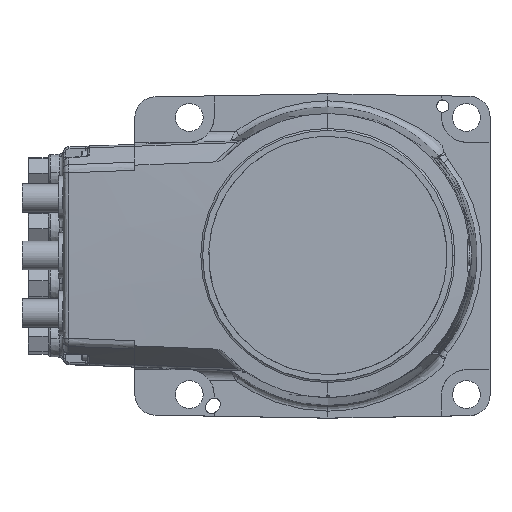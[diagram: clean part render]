
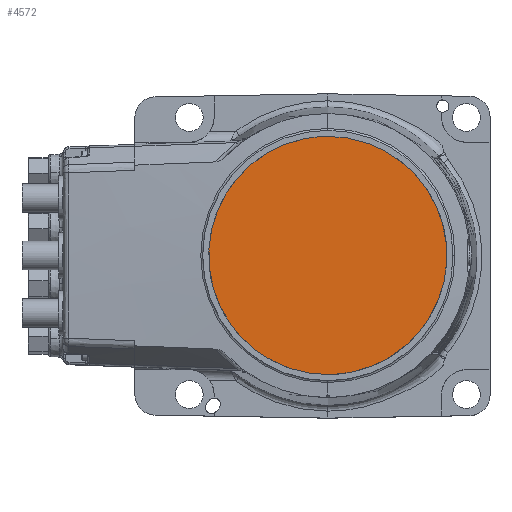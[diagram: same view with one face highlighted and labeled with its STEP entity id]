
A CAD part, top view. The second image highlights one B-rep face of the part: STEP entity #4572.
In plain terms, the highlighted planar face has unit normal (0, 0, 1).
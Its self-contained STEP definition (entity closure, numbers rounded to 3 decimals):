
#358 = CARTESIAN_POINT ( 'NONE',  ( 18.689, -55.038, 159.5 ) ) ;
#1803 = CARTESIAN_POINT ( 'NONE',  ( -43.696, 38.328, 159.5 ) ) ;
#2028 = CARTESIAN_POINT ( 'NONE',  ( 0., -58., 159.5 ) ) ;
#2078 = CARTESIAN_POINT ( 'NONE',  ( -57.626, 7.592, 159.5 ) ) ;
#3887 = CARTESIAN_POINT ( 'NONE',  ( 58., 3.796, 159.5 ) ) ;
#4151 = CARTESIAN_POINT ( 'NONE',  ( 0., -58., 159.5 ) ) ;
#4254 = VERTEX_POINT ( 'NONE', #2028 ) ;
#4474 = CARTESIAN_POINT ( 'NONE',  ( 25.703, -52.132, 159.5 ) ) ;
#4572 = ADVANCED_FACE ( 'NONE', ( #41396 ), #5123, .T. ) ;
#4747 = CARTESIAN_POINT ( 'NONE',  ( -55.038, -18.689, 159.5 ) ) ;
#4759 = CARTESIAN_POINT ( 'NONE',  ( 57.626, -7.592, 159.5 ) ) ;
#5045 = CARTESIAN_POINT ( 'NONE',  ( 0., 58., 159.5 ) ) ;
#5123 = PLANE ( 'NONE',  #7370 ) ;
#5323 = CARTESIAN_POINT ( 'NONE',  ( -3.796, 58., 159.5 ) ) ;
#5709 = DIRECTION ( 'NONE',  ( 0., 0., 1. ) ) ;
#6483 = CARTESIAN_POINT ( 'NONE',  ( -25.703, 52.132, 159.5 ) ) ;
#7370 = AXIS2_PLACEMENT_3D ( 'NONE', #22681, #5709, #18594 ) ;
#9150 = CARTESIAN_POINT ( 'NONE',  ( 58., -3.796, 159.5 ) ) ;
#10701 = VERTEX_POINT ( 'NONE', #21392 ) ;
#13238 = CARTESIAN_POINT ( 'NONE',  ( -7.592, -57.626, 159.5 ) ) ;
#13258 = CARTESIAN_POINT ( 'NONE',  ( 0., -58., 159.5 ) ) ;
#13527 = CARTESIAN_POINT ( 'NONE',  ( -15.038, -56.145, 159.5 ) ) ;
#13837 = CARTESIAN_POINT ( 'NONE',  ( 43.696, 38.328, 159.5 ) ) ;
#14106 = CARTESIAN_POINT ( 'NONE',  ( -29.067, -50.334, 159.5 ) ) ;
#14121 = CARTESIAN_POINT ( 'NONE',  ( 46.116, -35.379, 159.5 ) ) ;
#14408 = CARTESIAN_POINT ( 'NONE',  ( -55.038, 18.689, 159.5 ) ) ;
#17629 = CARTESIAN_POINT ( 'NONE',  ( -52.132, -25.703, 159.5 ) ) ;
#17643 = CARTESIAN_POINT ( 'NONE',  ( 50.334, 29.067, 159.5 ) ) ;
#18221 = CARTESIAN_POINT ( 'NONE',  ( 52.132, 25.703, 159.5 ) ) ;
#18594 = DIRECTION ( 'NONE',  ( 1., 0., 0. ) ) ;
#19924 = CARTESIAN_POINT ( 'NONE',  ( -29.067, 50.334, 159.5 ) ) ;
#21392 = CARTESIAN_POINT ( 'NONE',  ( 0., 58., 159.5 ) ) ;
#22011 = CARTESIAN_POINT ( 'NONE',  ( -35.379, -46.116, 159.5 ) ) ;
#22024 = CARTESIAN_POINT ( 'NONE',  ( 18.689, 55.038, 159.5 ) ) ;
#22593 = CARTESIAN_POINT ( 'NONE',  ( -56.145, -15.038, 159.5 ) ) ;
#22608 = CARTESIAN_POINT ( 'NONE',  ( 56.145, -15.038, 159.5 ) ) ;
#22681 = CARTESIAN_POINT ( 'NONE',  ( 0., 0., 159.5 ) ) ;
#23170 = CARTESIAN_POINT ( 'NONE',  ( -46.116, 35.379, 159.5 ) ) ;
#23519 = B_SPLINE_CURVE_WITH_KNOTS ( 'NONE', 3,
 ( #5045, #49810, #31085, #35771, #22024, #31952, #27000, #39857, #26423, #13837, #44848, #17643, #18221, #36360, #48654, #48938, #3887, #9150, #4759, #22608, #26139, #36068, #49527, #14121, #43974, #53642, #40448, #57443, #4474, #358, #31655, #35483, #53056, #13258 ),
 .UNSPECIFIED., .F., .F.,
 ( 4, 2, 2, 2, 2, 2, 2, 2, 2, 2, 2, 2, 2, 2, 2, 2, 4 ),
 ( 0., 0.062, 0.125, 0.187, 0.25, 0.313, 0.375, 0.438, 0.5, 0.563, 0.625, 0.688, 0.75, 0.813, 0.875, 0.938, 1. ),
 .UNSPECIFIED. ) ;
#23751 = CARTESIAN_POINT ( 'NONE',  ( -52.132, 25.703, 159.5 ) ) ;
#23973 = ORIENTED_EDGE ( 'NONE', *, *, #49718, .F. ) ;
#26139 = CARTESIAN_POINT ( 'NONE',  ( 55.038, -18.689, 159.5 ) ) ;
#26300 = EDGE_CURVE ( 'NONE', #4254, #10701, #51312, .T. ) ;
#26423 = CARTESIAN_POINT ( 'NONE',  ( 38.328, 43.696, 159.5 ) ) ;
#26983 = CARTESIAN_POINT ( 'NONE',  ( -18.689, -55.038, 159.5 ) ) ;
#27000 = CARTESIAN_POINT ( 'NONE',  ( 29.067, 50.334, 159.5 ) ) ;
#27265 = CARTESIAN_POINT ( 'NONE',  ( -3.796, -58., 159.5 ) ) ;
#28134 = CARTESIAN_POINT ( 'NONE',  ( -18.689, 55.038, 159.5 ) ) ;
#30002 = ORIENTED_EDGE ( 'NONE', *, *, #26300, .F. ) ;
#31085 = CARTESIAN_POINT ( 'NONE',  ( 7.592, 57.626, 159.5 ) ) ;
#31655 = CARTESIAN_POINT ( 'NONE',  ( 15.038, -56.145, 159.5 ) ) ;
#31936 = CARTESIAN_POINT ( 'NONE',  ( -43.696, -38.328, 159.5 ) ) ;
#31952 = CARTESIAN_POINT ( 'NONE',  ( 25.703, 52.132, 159.5 ) ) ;
#32811 = CARTESIAN_POINT ( 'NONE',  ( -35.379, 46.116, 159.5 ) ) ;
#35467 = CARTESIAN_POINT ( 'NONE',  ( -57.626, -7.592, 159.5 ) ) ;
#35483 = CARTESIAN_POINT ( 'NONE',  ( 7.592, -57.626, 159.5 ) ) ;
#35771 = CARTESIAN_POINT ( 'NONE',  ( 15.038, 56.145, 159.5 ) ) ;
#36068 = CARTESIAN_POINT ( 'NONE',  ( 52.132, -25.703, 159.5 ) ) ;
#36360 = CARTESIAN_POINT ( 'NONE',  ( 55.038, 18.689, 159.5 ) ) ;
#37212 = CARTESIAN_POINT ( 'NONE',  ( -50.334, 29.067, 159.5 ) ) ;
#37767 = CARTESIAN_POINT ( 'NONE',  ( -58., 3.796, 159.5 ) ) ;
#39841 = CARTESIAN_POINT ( 'NONE',  ( -38.328, -43.696, 159.5 ) ) ;
#39857 = CARTESIAN_POINT ( 'NONE',  ( 35.379, 46.116, 159.5 ) ) ;
#40448 = CARTESIAN_POINT ( 'NONE',  ( 35.379, -46.116, 159.5 ) ) ;
#41015 = CARTESIAN_POINT ( 'NONE',  ( 0., 58., 159.5 ) ) ;
#41301 = CARTESIAN_POINT ( 'NONE',  ( -56.145, 15.038, 159.5 ) ) ;
#41396 = FACE_OUTER_BOUND ( 'NONE', #53122, .T. ) ;
#43974 = CARTESIAN_POINT ( 'NONE',  ( 43.696, -38.328, 159.5 ) ) ;
#44848 = CARTESIAN_POINT ( 'NONE',  ( 46.116, 35.379, 159.5 ) ) ;
#45413 = CARTESIAN_POINT ( 'NONE',  ( -46.116, -35.379, 159.5 ) ) ;
#46575 = CARTESIAN_POINT ( 'NONE',  ( -38.328, 43.696, 159.5 ) ) ;
#48654 = CARTESIAN_POINT ( 'NONE',  ( 56.145, 15.038, 159.5 ) ) ;
#48938 = CARTESIAN_POINT ( 'NONE',  ( 57.626, 7.592, 159.5 ) ) ;
#49527 = CARTESIAN_POINT ( 'NONE',  ( 50.334, -29.067, 159.5 ) ) ;
#49718 = EDGE_CURVE ( 'NONE', #10701, #4254, #23519, .T. ) ;
#49810 = CARTESIAN_POINT ( 'NONE',  ( 3.796, 58., 159.5 ) ) ;
#50097 = CARTESIAN_POINT ( 'NONE',  ( -15.038, 56.145, 159.5 ) ) ;
#50661 = CARTESIAN_POINT ( 'NONE',  ( -7.592, 57.626, 159.5 ) ) ;
#51312 = B_SPLINE_CURVE_WITH_KNOTS ( 'NONE', 3,
 ( #4151, #27265, #13238, #13527, #26983, #54213, #14106, #22011, #39841, #31936, #45413, #57729, #17629, #4747, #22593, #35467, #53337, #37767, #2078, #41301, #14408, #23751, #37212, #23170, #1803, #46575, #32811, #19924, #6483, #28134, #50097, #50661, #5323, #41015 ),
 .UNSPECIFIED., .F., .F.,
 ( 4, 2, 2, 2, 2, 2, 2, 2, 2, 2, 2, 2, 2, 2, 2, 2, 4 ),
 ( 0., 0.062, 0.125, 0.187, 0.25, 0.312, 0.375, 0.437, 0.5, 0.562, 0.625, 0.687, 0.75, 0.812, 0.875, 0.938, 1. ),
 .UNSPECIFIED. ) ;
#53056 = CARTESIAN_POINT ( 'NONE',  ( 3.796, -58., 159.5 ) ) ;
#53122 = EDGE_LOOP ( 'NONE', ( #23973, #30002 ) ) ;
#53337 = CARTESIAN_POINT ( 'NONE',  ( -58., -3.796, 159.5 ) ) ;
#53642 = CARTESIAN_POINT ( 'NONE',  ( 38.328, -43.696, 159.5 ) ) ;
#54213 = CARTESIAN_POINT ( 'NONE',  ( -25.703, -52.132, 159.5 ) ) ;
#57443 = CARTESIAN_POINT ( 'NONE',  ( 29.067, -50.334, 159.5 ) ) ;
#57729 = CARTESIAN_POINT ( 'NONE',  ( -50.334, -29.067, 159.5 ) ) ;
